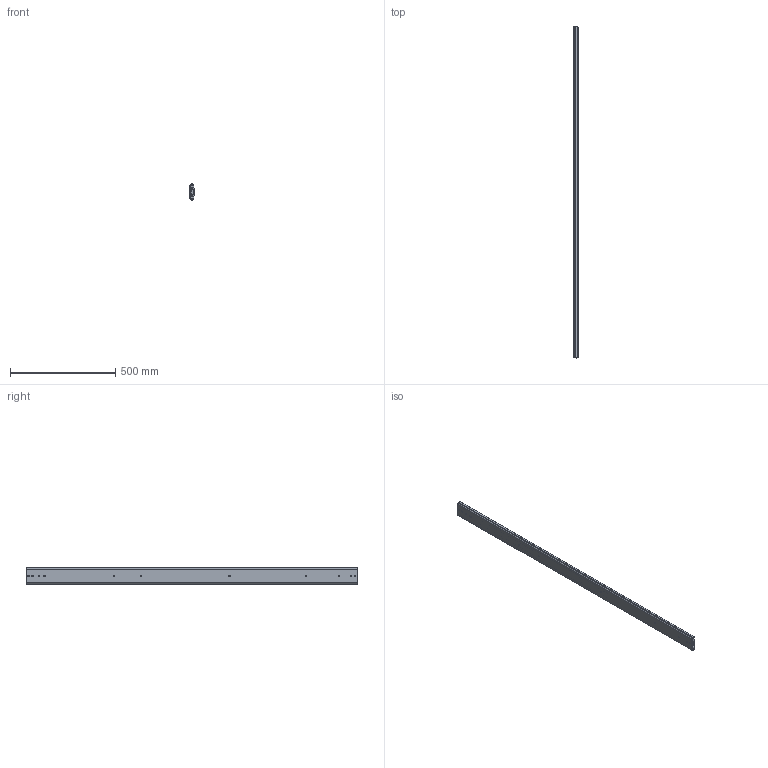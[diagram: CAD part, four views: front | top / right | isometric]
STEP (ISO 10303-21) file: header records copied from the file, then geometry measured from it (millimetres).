
FILE_DESCRIPTION(/* description */ ('Unknown'),/* implementation_level */ '2;1');
FILE_NAME(/* name */ '76J01-62 close',/* time_stamp */ '2024-07-30T14:10:43+08:00',/* author */ ('Unknown'),/* organization */ ('Unknown'),/* preprocessor_version */ 'ST-DEVELOPER v18.104',/* originating_system */ 'Solid Edge',/* authorisation */ 'Unknown');
FILE_SCHEMA (('AUTOMOTIVE_DESIGN {1 0 10303 214 3 1 1}'));
Length unit declared in the file: millimetre
Products named in the file (4): 76J01-62 close; 76J01 62 inch 內 ; 76J01 62 吋
Assembly tree (3 placements, depth 2):
  76J01-62 close
    76J01 62 inch 內 
    76J01 62 吋
    76J01 62 吋
Bounding box: 19.3 x 1574.8 x 76.76 mm (x, y, z)
Volume: 1245980.2 mm3; surface area: 774331.5 mm2
Topology: 3 solids, 3 shells, 196 faces, 606 edges, 410 vertices
Faces by surface type: plane 104, cylinder 92
Full cylindrical faces by diameter (mm): 5.2 x16, 7.1 x2
Entity records: 7179 total; most frequent: CARTESIAN_POINT 1168, DIRECTION 1152, ORIENTED_EDGE 1140, EDGE_CURVE 570, VERTEX_POINT 392, LINE 384, VECTOR 384, AXIS2_PLACEMENT_3D 384
